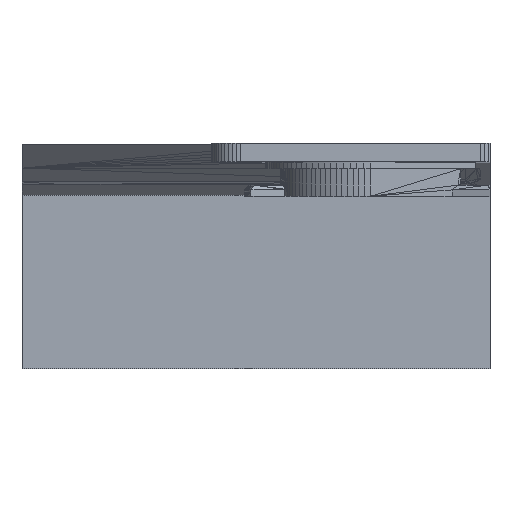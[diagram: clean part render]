
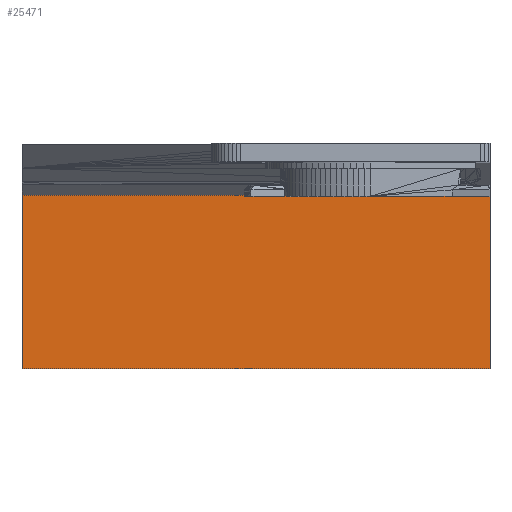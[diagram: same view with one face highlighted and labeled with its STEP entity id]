
A CAD part, top view. The second image highlights one B-rep face of the part: STEP entity #25471.
In plain terms, the highlighted planar face has unit normal (0, 0, 1).
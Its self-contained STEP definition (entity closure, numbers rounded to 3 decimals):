
#833 = PLANE('',#834);
#834 = AXIS2_PLACEMENT_3D('',#835,#836,#837);
#835 = CARTESIAN_POINT('',(-0.478,42.,-40.087));
#836 = DIRECTION('',(-0.,-1.,-0.));
#837 = DIRECTION('',(0.,0.,-1.));
#983 = VERTEX_POINT('',#984);
#984 = CARTESIAN_POINT('',(30.294,42.,-38.4));
#998 = PLANE('',#999);
#999 = AXIS2_PLACEMENT_3D('',#1000,#1001,#1002);
#1000 = CARTESIAN_POINT('',(30.294,50.454,
    -40.446));
#1001 = DIRECTION('',(1.,0.,0.));
#1002 = DIRECTION('',(-0.,0.,1.));
#1010 = EDGE_CURVE('',#983,#1011,#1013,.T.);
#1011 = VERTEX_POINT('',#1012);
#1012 = CARTESIAN_POINT('',(-19.5,42.,-38.4));
#1013 = SURFACE_CURVE('',#1014,(#1018,#1025),.PCURVE_S1.);
#1014 = LINE('',#1015,#1016);
#1015 = CARTESIAN_POINT('',(30.294,42.,-38.4));
#1016 = VECTOR('',#1017,1.);
#1017 = DIRECTION('',(-1.,0.,0.));
#1018 = PCURVE('',#833,#1019);
#1019 = DEFINITIONAL_REPRESENTATION('',(#1020),#1024);
#1020 = LINE('',#1021,#1022);
#1021 = CARTESIAN_POINT('',(-1.687,30.772));
#1022 = VECTOR('',#1023,1.);
#1023 = DIRECTION('',(0.,-1.));
#1024 = ( GEOMETRIC_REPRESENTATION_CONTEXT(2) 
PARAMETRIC_REPRESENTATION_CONTEXT() REPRESENTATION_CONTEXT('2D SPACE',''
  ) );
#1025 = PCURVE('',#1026,#1031);
#1026 = PLANE('',#1027);
#1027 = AXIS2_PLACEMENT_3D('',#1028,#1029,#1030);
#1028 = CARTESIAN_POINT('',(1.61,55.017,
    -38.4));
#1029 = DIRECTION('',(0.,0.,1.));
#1030 = DIRECTION('',(1.,0.,-0.));
#1031 = DEFINITIONAL_REPRESENTATION('',(#1032),#1036);
#1032 = LINE('',#1033,#1034);
#1033 = CARTESIAN_POINT('',(28.684,-13.017));
#1034 = VECTOR('',#1035,1.);
#1035 = DIRECTION('',(-1.,0.));
#1036 = ( GEOMETRIC_REPRESENTATION_CONTEXT(2) 
PARAMETRIC_REPRESENTATION_CONTEXT() REPRESENTATION_CONTEXT('2D SPACE',''
  ) );
#1054 = PLANE('',#1055);
#1055 = AXIS2_PLACEMENT_3D('',#1056,#1057,#1058);
#1056 = CARTESIAN_POINT('',(-19.5,56.436,-41.197));
#1057 = DIRECTION('',(-1.,-0.,-0.));
#1058 = DIRECTION('',(0.,0.,-1.));
#2345 = EDGE_CURVE('',#1011,#2346,#2348,.T.);
#2346 = VERTEX_POINT('',#2347);
#2347 = CARTESIAN_POINT('',(-19.5,60.46,-38.4));
#2348 = SURFACE_CURVE('',#2349,(#2353,#2360),.PCURVE_S1.);
#2349 = LINE('',#2350,#2351);
#2350 = CARTESIAN_POINT('',(-19.5,42.,-38.4));
#2351 = VECTOR('',#2352,1.);
#2352 = DIRECTION('',(0.,1.,0.));
#2353 = PCURVE('',#1054,#2354);
#2354 = DEFINITIONAL_REPRESENTATION('',(#2355),#2359);
#2355 = LINE('',#2356,#2357);
#2356 = CARTESIAN_POINT('',(-2.797,14.436));
#2357 = VECTOR('',#2358,1.);
#2358 = DIRECTION('',(0.,-1.));
#2359 = ( GEOMETRIC_REPRESENTATION_CONTEXT(2) 
PARAMETRIC_REPRESENTATION_CONTEXT() REPRESENTATION_CONTEXT('2D SPACE',''
  ) );
#2360 = PCURVE('',#1026,#2361);
#2361 = DEFINITIONAL_REPRESENTATION('',(#2362),#2366);
#2362 = LINE('',#2363,#2364);
#2363 = CARTESIAN_POINT('',(-21.11,-13.017));
#2364 = VECTOR('',#2365,1.);
#2365 = DIRECTION('',(0.,1.));
#2366 = ( GEOMETRIC_REPRESENTATION_CONTEXT(2) 
PARAMETRIC_REPRESENTATION_CONTEXT() REPRESENTATION_CONTEXT('2D SPACE',''
  ) );
#2384 = PLANE('',#2385);
#2385 = AXIS2_PLACEMENT_3D('',#2386,#2387,#2388);
#2386 = CARTESIAN_POINT('',(4.994,60.754,
    -38.106));
#2387 = DIRECTION('',(0.,-0.707,0.707));
#2388 = DIRECTION('',(0.,0.707,0.707));
#19138 = VERTEX_POINT('',#19139);
#19139 = CARTESIAN_POINT('',(30.294,60.46,
    -38.4));
#25326 = EDGE_CURVE('',#2346,#19138,#25327,.T.);
#25327 = SURFACE_CURVE('',#25328,(#25332,#25339),.PCURVE_S1.);
#25328 = LINE('',#25329,#25330);
#25329 = CARTESIAN_POINT('',(-19.5,60.46,-38.4));
#25330 = VECTOR('',#25331,1.);
#25331 = DIRECTION('',(1.,0.,0.));
#25332 = PCURVE('',#2384,#25333);
#25333 = DEFINITIONAL_REPRESENTATION('',(#25334),#25338);
#25334 = LINE('',#25335,#25336);
#25335 = CARTESIAN_POINT('',(-0.416,24.494));
#25336 = VECTOR('',#25337,1.);
#25337 = DIRECTION('',(0.,-1.));
#25338 = ( GEOMETRIC_REPRESENTATION_CONTEXT(2) 
PARAMETRIC_REPRESENTATION_CONTEXT() REPRESENTATION_CONTEXT('2D SPACE',''
  ) );
#25339 = PCURVE('',#1026,#25340);
#25340 = DEFINITIONAL_REPRESENTATION('',(#25341),#25345);
#25341 = LINE('',#25342,#25343);
#25342 = CARTESIAN_POINT('',(-21.11,5.443));
#25343 = VECTOR('',#25344,1.);
#25344 = DIRECTION('',(1.,0.));
#25345 = ( GEOMETRIC_REPRESENTATION_CONTEXT(2) 
PARAMETRIC_REPRESENTATION_CONTEXT() REPRESENTATION_CONTEXT('2D SPACE',''
  ) );
#25471 = ADVANCED_FACE('',(#25472),#1026,.T.);
#25472 = FACE_BOUND('',#25473,.T.);
#25473 = EDGE_LOOP('',(#25474,#25475,#25476,#25477));
#25474 = ORIENTED_EDGE('',*,*,#25326,.F.);
#25475 = ORIENTED_EDGE('',*,*,#2345,.F.);
#25476 = ORIENTED_EDGE('',*,*,#1010,.F.);
#25477 = ORIENTED_EDGE('',*,*,#25478,.T.);
#25478 = EDGE_CURVE('',#983,#19138,#25479,.T.);
#25479 = SURFACE_CURVE('',#25480,(#25484,#25491),.PCURVE_S1.);
#25480 = LINE('',#25481,#25482);
#25481 = CARTESIAN_POINT('',(30.294,42.,-38.4));
#25482 = VECTOR('',#25483,1.);
#25483 = DIRECTION('',(0.,1.,0.));
#25484 = PCURVE('',#1026,#25485);
#25485 = DEFINITIONAL_REPRESENTATION('',(#25486),#25490);
#25486 = LINE('',#25487,#25488);
#25487 = CARTESIAN_POINT('',(28.684,-13.017));
#25488 = VECTOR('',#25489,1.);
#25489 = DIRECTION('',(0.,1.));
#25490 = ( GEOMETRIC_REPRESENTATION_CONTEXT(2) 
PARAMETRIC_REPRESENTATION_CONTEXT() REPRESENTATION_CONTEXT('2D SPACE',''
  ) );
#25491 = PCURVE('',#998,#25492);
#25492 = DEFINITIONAL_REPRESENTATION('',(#25493),#25497);
#25493 = LINE('',#25494,#25495);
#25494 = CARTESIAN_POINT('',(2.046,8.454));
#25495 = VECTOR('',#25496,1.);
#25496 = DIRECTION('',(0.,-1.));
#25497 = ( GEOMETRIC_REPRESENTATION_CONTEXT(2) 
PARAMETRIC_REPRESENTATION_CONTEXT() REPRESENTATION_CONTEXT('2D SPACE',''
  ) );
